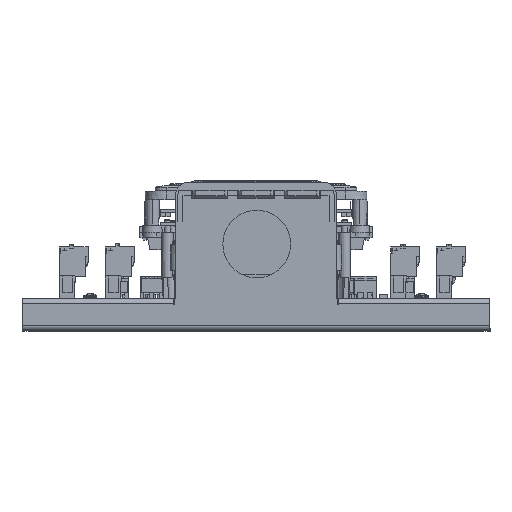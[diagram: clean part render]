
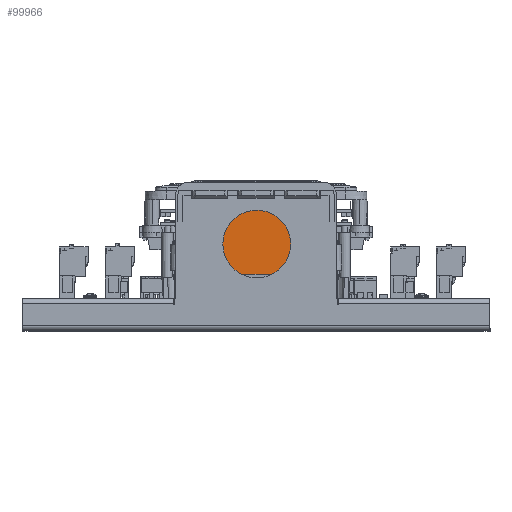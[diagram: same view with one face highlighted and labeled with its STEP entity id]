
A CAD part, top view. The second image highlights one B-rep face of the part: STEP entity #99966.
In plain terms, the highlighted planar face has unit normal (0, 0.018, -1).
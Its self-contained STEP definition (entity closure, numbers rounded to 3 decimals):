
#680 = CARTESIAN_POINT ( 'NONE',  ( -36.048, 34.698, 4.806 ) ) ;
#2385 = CARTESIAN_POINT ( 'NONE',  ( 34.33, 21.236, 4.571 ) ) ;
#4321 = CARTESIAN_POINT ( 'NONE',  ( 29.418, 48.362, 5.044 ) ) ;
#7899 = CARTESIAN_POINT ( 'NONE',  ( 29.345, 55.194, 5.163 ) ) ;
#8553 = VECTOR ( 'NONE', #159760, 1000. ) ;
#8966 = B_SPLINE_CURVE_WITH_KNOTS ( 'NONE', 3,
 ( #85145, #184527, #197300, #35356 ),
 .UNSPECIFIED., .F., .F.,
 ( 4, 4 ),
 ( 0.035, 0.048 ),
 .UNSPECIFIED. ) ;
#11513 = VERTEX_POINT ( 'NONE', #680 ) ;
#12146 = CARTESIAN_POINT ( 'NONE',  ( 19.563, 55.249, 5.164 ) ) ;
#12218 = ORIENTED_EDGE ( 'NONE', *, *, #49644, .T. ) ;
#13326 = DIRECTION ( 'NONE',  ( -1., 0., 0. ) ) ;
#13698 = VECTOR ( 'NONE', #39866, 1000. ) ;
#17817 = VERTEX_POINT ( 'NONE', #198041 ) ;
#18432 = ORIENTED_EDGE ( 'NONE', *, *, #155137, .T. ) ;
#20899 = VECTOR ( 'NONE', #82121, 1000. ) ;
#22792 = VERTEX_POINT ( 'NONE', #29681 ) ;
#24526 = CARTESIAN_POINT ( 'NONE',  ( 29.568, 34.698, 4.806 ) ) ;
#28624 = EDGE_CURVE ( 'NONE', #148954, #99057, #112627, .T. ) ;
#29681 = CARTESIAN_POINT ( 'NONE',  ( -35.887, 21.236, 4.571 ) ) ;
#30817 = VERTEX_POINT ( 'NONE', #24526 ) ;
#30923 = EDGE_LOOP ( 'NONE', ( #124890, #37849, #205292, #12218, #173887, #107655, #18432, #98285, #69113, #63060, #76427, #119186 ) ) ;
#32561 = LINE ( 'NONE', #89496, #75852 ) ;
#35356 = CARTESIAN_POINT ( 'NONE',  ( -35.887, 21.236, 4.571 ) ) ;
#36280 = CARTESIAN_POINT ( 'NONE',  ( 29.568, 34.698, 4.806 ) ) ;
#37351 = CARTESIAN_POINT ( 'NONE',  ( -29.345, 55.194, 5.163 ) ) ;
#37849 = ORIENTED_EDGE ( 'NONE', *, *, #167153, .T. ) ;
#39356 = LINE ( 'NONE', #80056, #204641 ) ;
#39866 = DIRECTION ( 'NONE',  ( -1., 0., 0. ) ) ;
#43189 = B_SPLINE_CURVE_WITH_KNOTS ( 'NONE', 3,
 ( #207714, #126772, #94185, #79835 ),
 .UNSPECIFIED., .F., .F.,
 ( 4, 4 ),
 ( 0.035, 0.048 ),
 .UNSPECIFIED. ) ;
#49644 = EDGE_CURVE ( 'NONE', #30817, #148017, #115404, .T. ) ;
#50577 = CARTESIAN_POINT ( 'NONE',  ( 29.345, 55.194, 5.163 ) ) ;
#53060 = CARTESIAN_POINT ( 'NONE',  ( -29.568, 34.698, 4.806 ) ) ;
#59771 = EDGE_CURVE ( 'NONE', #17817, #161063, #32561, .T. ) ;
#60688 = CARTESIAN_POINT ( 'NONE',  ( -29.568, 34.698, 4.806 ) ) ;
#63060 = ORIENTED_EDGE ( 'NONE', *, *, #141166, .F. ) ;
#69113 = ORIENTED_EDGE ( 'NONE', *, *, #59771, .T. ) ;
#72622 = EDGE_CURVE ( 'NONE', #142382, #178105, #39356, .T. ) ;
#73124 = DIRECTION ( 'NONE',  ( -0.052, 0.998, 0.017 ) ) ;
#73339 = CARTESIAN_POINT ( 'NONE',  ( -35.486, 34.698, 4.806 ) ) ;
#74045 = CARTESIAN_POINT ( 'NONE',  ( 9.782, 55.275, 5.165 ) ) ;
#75852 = VECTOR ( 'NONE', #73124, 1000. ) ;
#76427 = ORIENTED_EDGE ( 'NONE', *, *, #93282, .F. ) ;
#79835 = CARTESIAN_POINT ( 'NONE',  ( 35.887, 21.236, 4.571 ) ) ;
#80056 = CARTESIAN_POINT ( 'NONE',  ( -35.486, 21.236, 4.571 ) ) ;
#80695 = VERTEX_POINT ( 'NONE', #175014 ) ;
#82121 = DIRECTION ( 'NONE',  ( -1., 0., 0. ) ) ;
#84850 = LINE ( 'NONE', #120789, #196659 ) ;
#84875 = LINE ( 'NONE', #73339, #13698 ) ;
#85145 = CARTESIAN_POINT ( 'NONE',  ( -36.048, 34.698, 4.806 ) ) ;
#89496 = CARTESIAN_POINT ( 'NONE',  ( -33.577, 6.869, 4.32 ) ) ;
#93282 = EDGE_CURVE ( 'NONE', #11513, #22792, #8966, .T. ) ;
#94185 = CARTESIAN_POINT ( 'NONE',  ( 35.94, 25.724, 4.649 ) ) ;
#98285 = ORIENTED_EDGE ( 'NONE', *, *, #103526, .T. ) ;
#99057 = VERTEX_POINT ( 'NONE', #115791 ) ;
#99966 = ADVANCED_FACE ( 'NONE', ( #143862 ), #151495, .T. ) ;
#101578 = AXIS2_PLACEMENT_3D ( 'NONE', #155016, #135915, #120291 ) ;
#103442 = LINE ( 'NONE', #130333, #138819 ) ;
#103526 = EDGE_CURVE ( 'NONE', #80695, #17817, #107369, .T. ) ;
#107369 = LINE ( 'NONE', #119543, #20899 ) ;
#107655 = ORIENTED_EDGE ( 'NONE', *, *, #72622, .T. ) ;
#112627 = B_SPLINE_CURVE_WITH_KNOTS ( 'NONE', 3,
 ( #53060, #134752, #199981, #37351 ),
 .UNSPECIFIED., .F., .F.,
 ( 4, 4 ),
 ( 0., 0.02 ),
 .UNSPECIFIED. ) ;
#115404 = LINE ( 'NONE', #160437, #8553 ) ;
#115791 = CARTESIAN_POINT ( 'NONE',  ( -29.345, 55.194, 5.163 ) ) ;
#118824 = CARTESIAN_POINT ( 'NONE',  ( 35.887, 21.236, 4.571 ) ) ;
#119186 = ORIENTED_EDGE ( 'NONE', *, *, #142490, .F. ) ;
#119543 = CARTESIAN_POINT ( 'NONE',  ( 39.878, 19.331, 4.537 ) ) ;
#120291 = DIRECTION ( 'NONE',  ( 0., 1., 0.017 ) ) ;
#120789 = CARTESIAN_POINT ( 'NONE',  ( 33.383, 3.161, 4.255 ) ) ;
#124890 = ORIENTED_EDGE ( 'NONE', *, *, #28624, .T. ) ;
#126772 = CARTESIAN_POINT ( 'NONE',  ( 35.993, 30.211, 4.727 ) ) ;
#127343 = EDGE_CURVE ( 'NONE', #131695, #30817, #209645, .T. ) ;
#129641 = DIRECTION ( 'NONE',  ( 1., 0., 0. ) ) ;
#130333 = CARTESIAN_POINT ( 'NONE',  ( -35.486, 21.236, 4.571 ) ) ;
#131695 = VERTEX_POINT ( 'NONE', #7899 ) ;
#134322 = DIRECTION ( 'NONE',  ( -0.052, -0.998, -0.017 ) ) ;
#134752 = CARTESIAN_POINT ( 'NONE',  ( -29.493, 41.53, 4.925 ) ) ;
#135872 = CARTESIAN_POINT ( 'NONE',  ( -19.563, 55.249, 5.164 ) ) ;
#135915 = DIRECTION ( 'NONE',  ( 0., 0.017, -1. ) ) ;
#138819 = VECTOR ( 'NONE', #129641, 1000. ) ;
#141166 = EDGE_CURVE ( 'NONE', #22792, #161063, #103442, .T. ) ;
#142382 = VERTEX_POINT ( 'NONE', #118824 ) ;
#142490 = EDGE_CURVE ( 'NONE', #148954, #11513, #84875, .T. ) ;
#143862 = FACE_OUTER_BOUND ( 'NONE', #30923, .T. ) ;
#148017 = VERTEX_POINT ( 'NONE', #178950 ) ;
#148954 = VERTEX_POINT ( 'NONE', #60688 ) ;
#149129 = B_SPLINE_CURVE_WITH_KNOTS ( 'NONE', 3,
 ( #167830, #135872, #171287, #74045, #12146, #173410 ),
 .UNSPECIFIED., .F., .F.,
 ( 4, 2, 4 ),
 ( 0., 0.029, 0.059 ),
 .UNSPECIFIED. ) ;
#151495 = PLANE ( 'NONE',  #101578 ) ;
#155016 = CARTESIAN_POINT ( 'NONE',  ( -35.486, 6.769, 4.318 ) ) ;
#155137 = EDGE_CURVE ( 'NONE', #178105, #80695, #84850, .T. ) ;
#159760 = DIRECTION ( 'NONE',  ( 1., 0., 0. ) ) ;
#160437 = CARTESIAN_POINT ( 'NONE',  ( -35.486, 34.698, 4.806 ) ) ;
#161063 = VERTEX_POINT ( 'NONE', #168777 ) ;
#167153 = EDGE_CURVE ( 'NONE', #99057, #131695, #149129, .T. ) ;
#167830 = CARTESIAN_POINT ( 'NONE',  ( -29.345, 55.194, 5.163 ) ) ;
#168777 = CARTESIAN_POINT ( 'NONE',  ( -34.33, 21.236, 4.571 ) ) ;
#171287 = CARTESIAN_POINT ( 'NONE',  ( -9.782, 55.275, 5.165 ) ) ;
#173410 = CARTESIAN_POINT ( 'NONE',  ( 29.345, 55.194, 5.163 ) ) ;
#173887 = ORIENTED_EDGE ( 'NONE', *, *, #209679, .T. ) ;
#175014 = CARTESIAN_POINT ( 'NONE',  ( 34.231, 19.331, 4.537 ) ) ;
#178105 = VERTEX_POINT ( 'NONE', #2385 ) ;
#178950 = CARTESIAN_POINT ( 'NONE',  ( 36.048, 34.698, 4.806 ) ) ;
#180550 = CARTESIAN_POINT ( 'NONE',  ( 29.493, 41.53, 4.925 ) ) ;
#184527 = CARTESIAN_POINT ( 'NONE',  ( -35.993, 30.211, 4.727 ) ) ;
#196659 = VECTOR ( 'NONE', #134322, 1000. ) ;
#197300 = CARTESIAN_POINT ( 'NONE',  ( -35.94, 25.724, 4.649 ) ) ;
#198041 = CARTESIAN_POINT ( 'NONE',  ( -34.231, 19.331, 4.537 ) ) ;
#199981 = CARTESIAN_POINT ( 'NONE',  ( -29.418, 48.362, 5.044 ) ) ;
#204641 = VECTOR ( 'NONE', #13326, 1000. ) ;
#205292 = ORIENTED_EDGE ( 'NONE', *, *, #127343, .T. ) ;
#207714 = CARTESIAN_POINT ( 'NONE',  ( 36.048, 34.698, 4.806 ) ) ;
#209645 = B_SPLINE_CURVE_WITH_KNOTS ( 'NONE', 3,
 ( #50577, #4321, #180550, #36280 ),
 .UNSPECIFIED., .F., .F.,
 ( 4, 4 ),
 ( 0., 0.021 ),
 .UNSPECIFIED. ) ;
#209679 = EDGE_CURVE ( 'NONE', #148017, #142382, #43189, .T. ) ;
